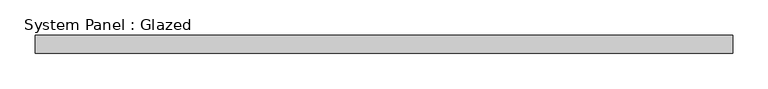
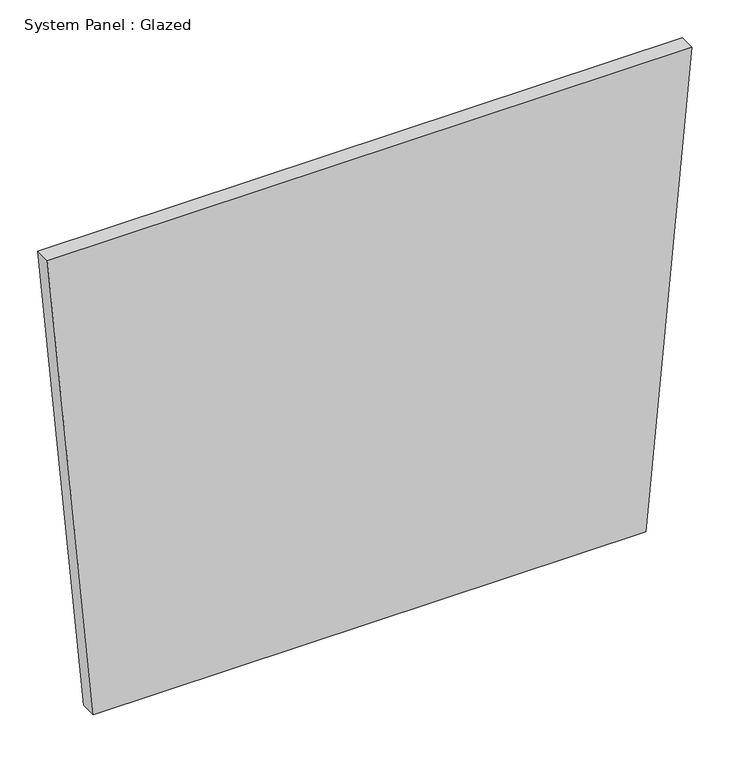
"""IFC4 building model written with IfcOpenShell, lengths in millimetres: plate geometry, System Panel : Glazed."""

from ifc_helpers import new_model, si_unit, frame, origin, place, context, project, spatial, polyline, outline, extrude, source, transform, mapped, element, save


def system_panel_glazed_488679e0(model_context):
    return source(origin(), model_context, "Body", "SweptSolid", [
        extrude(outline(polyline([(0.0, -422.6815495), (0.0, 422.6815495), (758.7366017, 493.1284744), (758.7366017, -493.1284744), (0.0, -422.6815495)])), frame((0.0, -44.45, 0.0), z_axis=(0.0, 1.0, 0.0), x_axis=(0.0, 0.0, 1.0)), (0.0, 0.0, 1.0), 25.4),
    ])


if __name__ == "__main__":
    model = new_model("IFC4")
    model_context = context("Model", 3, world=origin())
    ifc_project = project(units=[si_unit("LENGTHUNIT", "METRE", prefix="MILLI")], contexts=[model_context])
    site = spatial("IfcSite", under=ifc_project)
    building = spatial("IfcBuilding", under=site)
    placement = place(None, origin())
    system_panel_glazed_shape = system_panel_glazed_488679e0(model_context)
    element("IfcPlate", 1, ObjectType="System Panel : Glazed", at=placement, inside=building, context=model_context, shape_type="MappedRepresentation", body=[
        mapped(system_panel_glazed_shape, transform((0.0, 0.0, 0.0), x_axis=(1.0, 0.0, 0.0), y_axis=(0.0, 1.0, 0.0), z_axis=(0.0, 0.0, 1.0))),
    ])
    save(model, "model.ifc")
